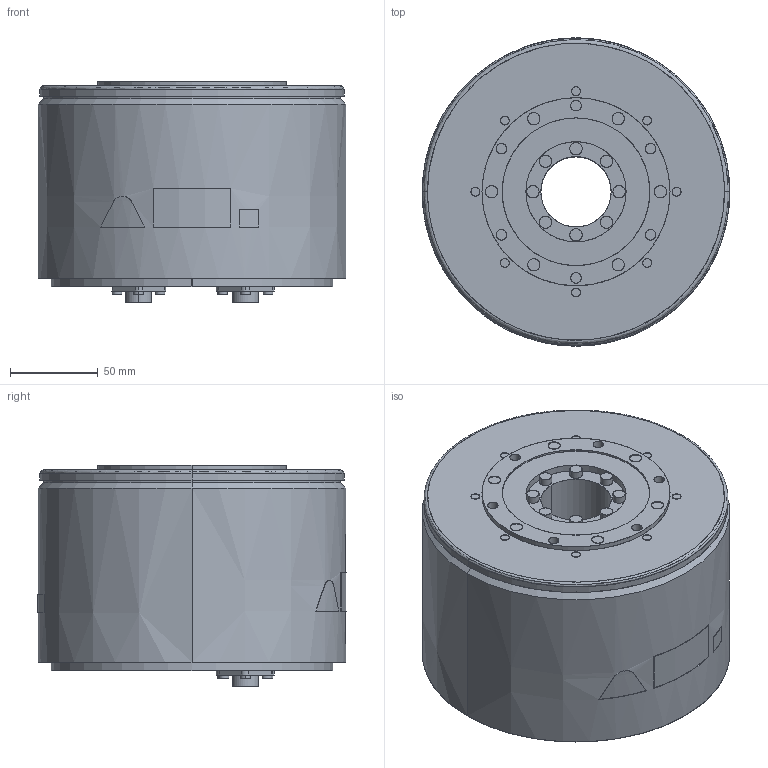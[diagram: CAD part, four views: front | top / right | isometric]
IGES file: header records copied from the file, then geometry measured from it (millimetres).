
Start section: SolidWorks IGES file using analytic representation for surfaces
Global section: file name: D:\YASKAWA\sgm7f_25c_a1_.IGS; native system: SolidWorks 2006 by SolidWorks Corporation; preprocessor: SolidWorks 2006 by SolidWorks Corporation; author: yamanouchi; date: 160724.152710; units: millimetre
Bounding box: 175 x 175.4 x 126.1 mm (x, y, z)
Surface area: 156208.2 mm2 (no closed solid volume)
Topology: 0 solids, 0 shells, 326 faces, 6663 edges, 6663 vertices
Faces by surface type: revolution 186, bspline 140
